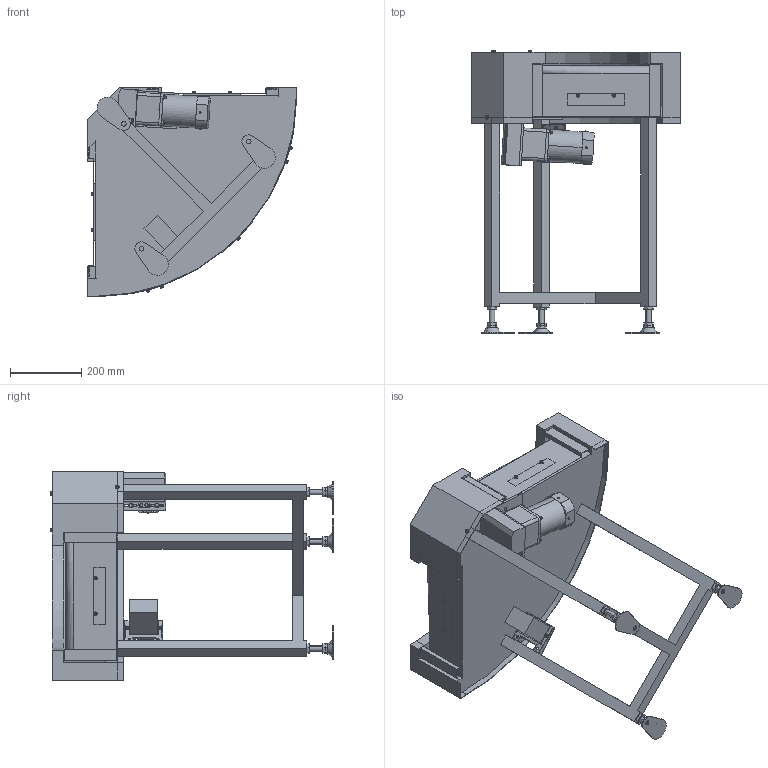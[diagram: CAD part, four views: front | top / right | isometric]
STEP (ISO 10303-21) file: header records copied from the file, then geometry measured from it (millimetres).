
FILE_DESCRIPTION( (''), '2;1');
FILE_NAME ('MBC2H-UD-309-300-90°-R-K-60-O.stp','2025-02-17T11:11:05',(''),(''),'spGate 20.6.2 (****-****-****-****)','','');
FILE_SCHEMA (('AUTOMOTIVE_DESIGN'));
Length unit declared in the file: millimetre
Products named in the file (46): NewModel; MBC2H-UD-309-300-90°-R-K-60-O; TEMP_X_T-prt0; TEMP_X_T-prt1; TEMP_X_T-prt2; TEMP_X_T-prt3; TEMP_X_T-prt4; TEMP_X_T-prt5; TEMP_X_T-prt6; TEMP_X_T-prt7; TEMP_X_T-prt8; TEMP_X_T-prt9; TEMP_X_T-prt10; TEMP_X_T-prt11; TEMP_X_T-prt12; TEMP_X_T-prt13; TEMP_X_T-prt14; TEMP_X_T-prt15; TEMP_X_T-prt16; TEMP_X_T-prt17; TEMP_X_T-prt18; TEMP_X_T-prt19; TEMP_X_T-prt20; TEMP_X_T-prt21; TEMP_X_T-prt22; TEMP_X_T-prt23; TEMP_X_T-prt24; TEMP_X_T-prt25; TEMP_X_T-prt26; TEMP_X_T-prt27; TEMP_X_T-prt28; TEMP_X_T-prt29; TEMP_X_T-prt30; TEMP_X_T-prt31; TEMP_X_T-prt32; TEMP_X_T-prt33; TEMP_X_T-prt34; TEMP_X_T-prt35; TEMP_X_T-prt36; TEMP_X_T-prt37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
Assembly tree (45 placements, depth 3):
  NewModel
    MBC2H-UD-309-300-90°-R-K-60-O
      TEMP_X_T-prt0
      TEMP_X_T-prt1
      TEMP_X_T-prt2
      TEMP_X_T-prt3
      TEMP_X_T-prt4
      TEMP_X_T-prt5
      TEMP_X_T-prt6
      TEMP_X_T-prt7
      TEMP_X_T-prt8
      TEMP_X_T-prt9
      TEMP_X_T-prt10
      TEMP_X_T-prt11
      TEMP_X_T-prt12
      TEMP_X_T-prt13
      TEMP_X_T-prt14
      TEMP_X_T-prt15
      TEMP_X_T-prt16
      TEMP_X_T-prt17
      TEMP_X_T-prt18
      TEMP_X_T-prt19
      TEMP_X_T-prt20
      TEMP_X_T-prt21
      TEMP_X_T-prt22
      TEMP_X_T-prt23
      TEMP_X_T-prt24
      TEMP_X_T-prt25
      TEMP_X_T-prt26
      TEMP_X_T-prt27
      TEMP_X_T-prt28
      TEMP_X_T-prt29
      TEMP_X_T-prt30
      TEMP_X_T-prt31
      TEMP_X_T-prt32
      TEMP_X_T-prt33
      TEMP_X_T-prt34
      TEMP_X_T-prt35
      TEMP_X_T-prt36
      TEMP_X_T-prt37
      TEMP_X_T-prt38
      TEMP_X_T-prt39
      TEMP_X_T-prt40
      TEMP_X_T-prt41
      TEMP_X_T-prt42
      TEMP_X_T-prt43
Bounding box: 588.1 x 794.6 x 588.1 mm (x, y, z)
Volume: 31085382.7 mm3; surface area: 2320064.4 mm2
Topology: 44 solids, 44 shells, 1180 faces, 2692 edges, 1694 vertices
Faces by surface type: plane 612, cylinder 306, bspline 262
Entity records: 61466 total; most frequent: CARTESIAN_POINT 12796, ORIENTED_EDGE 5384, DIRECTION 4948, COLOUR_RGB 3916, PRESENTATION_STYLE_ASSIGNMENT 3916, STYLED_ITEM 3916, EDGE_CURVE 2692, DRAUGHTING_PRE_DEFINED_CURVE_FONT 2692
